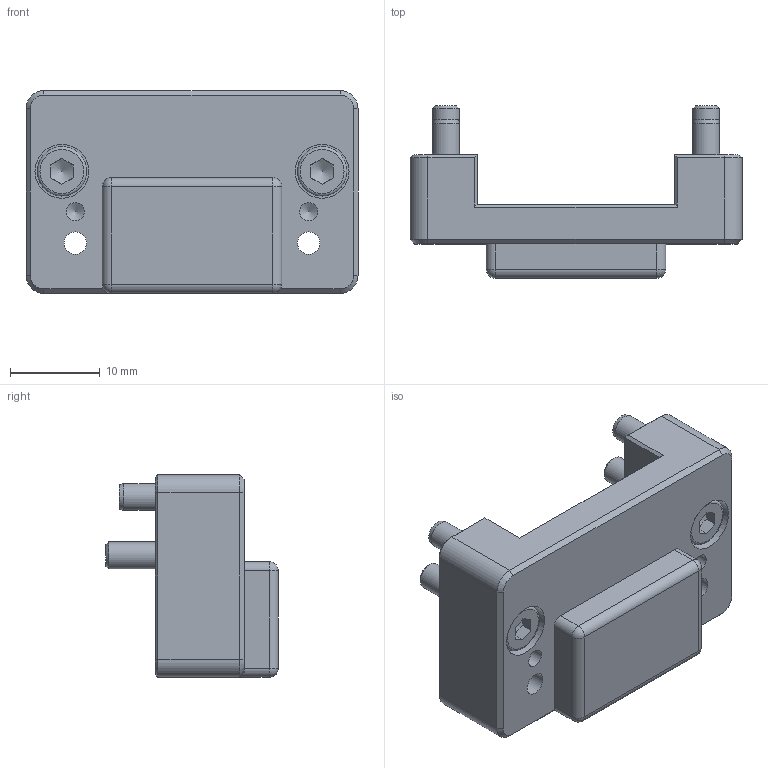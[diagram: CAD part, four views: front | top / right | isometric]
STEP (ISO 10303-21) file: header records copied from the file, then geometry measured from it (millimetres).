
FILE_DESCRIPTION(/* description */ (''),/* implementation_level */ '2;1');
FILE_NAME(/* name */ 'ZG-AP-SEK100-SHS100-O.stp',/* time_stamp */ '2024-11-13T16:07:43+01:00',/* author */ ('ysplieth'),/* organization */ (''),/* preprocessor_version */ 'ST-DEVELOPER v20',/* originating_system */ 'Autodesk Inventor 2024',/* authorisation */ '');
FILE_SCHEMA (('AUTOMOTIVE_DESIGN { 1 0 10303 214 3 1 1 }'));
Length unit declared in the file: millimetre
Products named in the file (1): Bauteil12
Bounding box: 37 x 19.2 x 22.6 mm (x, y, z)
Volume: 6365.7 mm3; surface area: 3901.4 mm2
Topology: 1 solids, 3 shells, 111 faces, 249 edges, 152 vertices
Faces by surface type: plane 55, cylinder 28, cone 20, torus 4, sphere 4
Full cylindrical faces by diameter (mm): 2 x2, 2.5 x2, 3 x6, 3.4 x2, 5.5 x2, 6 x2
Entity records: 3196 total; most frequent: DIRECTION 541, CARTESIAN_POINT 535, ORIENTED_EDGE 486, EDGE_CURVE 243, AXIS2_PLACEMENT_3D 200, VERTEX_POINT 152, LINE 141, VECTOR 141
